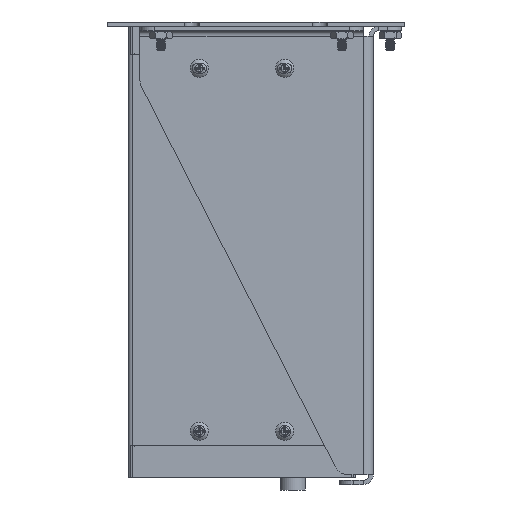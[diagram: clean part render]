
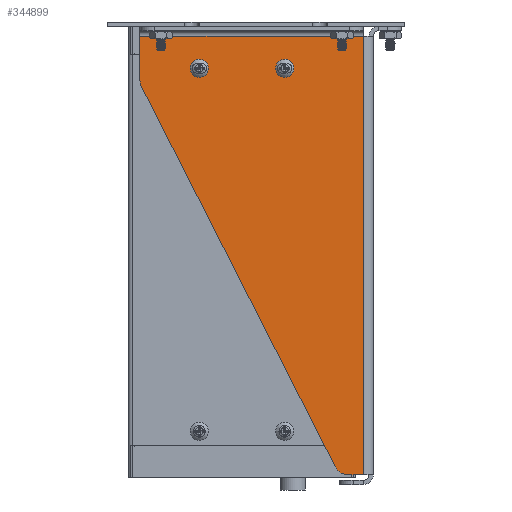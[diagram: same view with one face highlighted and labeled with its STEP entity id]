
A CAD part, left-side view. The second image highlights one B-rep face of the part: STEP entity #344899.
In plain terms, the highlighted planar face has unit normal (-1, 0, 0).
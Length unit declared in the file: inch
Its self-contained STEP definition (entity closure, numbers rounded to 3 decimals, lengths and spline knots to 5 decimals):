
#2132 = LINE ( 'NONE', #111964, #99370 ) ;
#7911 = EDGE_CURVE ( 'NONE', #267309, #241299, #233218, .T. ) ;
#8059 = DIRECTION ( 'NONE',  ( 0., 1., 0. ) ) ;
#8524 = CARTESIAN_POINT ( 'NONE',  ( -5.0897, 3.0947, -0.5653 ) ) ;
#12644 = CIRCLE ( 'NONE', #40953, 0.25 ) ;
#12885 = EDGE_CURVE ( 'NONE', #266610, #267309, #236851, .T. ) ;
#22857 = VECTOR ( 'NONE', #107054, 39.37008 ) ;
#24218 = CIRCLE ( 'NONE', #216382, 0.085 ) ;
#24424 = DIRECTION ( 'NONE',  ( 0., 1., 0. ) ) ;
#27054 = EDGE_LOOP ( 'NONE', ( #261532, #230809, #189957, #292829 ) ) ;
#28283 = CARTESIAN_POINT ( 'NONE',  ( -5.0897, 0., 0. ) ) ;
#29731 = DIRECTION ( 'NONE',  ( 0., 1., 0. ) ) ;
#32951 = EDGE_CURVE ( 'NONE', #116587, #118021, #185593, .T. ) ;
#34145 = DIRECTION ( 'NONE',  ( 1., 0., 0. ) ) ;
#36063 = CARTESIAN_POINT ( 'NONE',  ( -5.0897, 3.0147, -0.4803 ) ) ;
#40953 = AXIS2_PLACEMENT_3D ( 'NONE', #285878, #144716, #256051 ) ;
#44725 = VERTEX_POINT ( 'NONE', #345786 ) ;
#46740 = CARTESIAN_POINT ( 'NONE',  ( -5.0897, 0., -0.6503 ) ) ;
#49809 = AXIS2_PLACEMENT_3D ( 'NONE', #28283, #81354, #61370 ) ;
#50659 = AXIS2_PLACEMENT_3D ( 'NONE', #87288, #34145, #195188 ) ;
#54723 = LINE ( 'NONE', #136087, #344514 ) ;
#55503 = CARTESIAN_POINT ( 'NONE',  ( -5.0897, 4.1, 0. ) ) ;
#56852 = EDGE_CURVE ( 'NONE', #44725, #116587, #221612, .T. ) ;
#58126 = DIRECTION ( 'NONE',  ( 1., 0., 0. ) ) ;
#59785 = EDGE_LOOP ( 'NONE', ( #146215, #94809, #71144, #176099, #263094, #68980, #191819 ) ) ;
#60145 = CARTESIAN_POINT ( 'NONE',  ( -5.0897, 4.1, -0.76533 ) ) ;
#61370 = DIRECTION ( 'NONE',  ( 0., 1., 0. ) ) ;
#64198 = VERTEX_POINT ( 'NONE', #294191 ) ;
#64677 = AXIS2_PLACEMENT_3D ( 'NONE', #8524, #58126, #224371 ) ;
#67370 = CARTESIAN_POINT ( 'NONE',  ( -5.0897, 3.0947, -0.4803 ) ) ;
#68980 = ORIENTED_EDGE ( 'NONE', *, *, #130575, .F. ) ;
#71144 = ORIENTED_EDGE ( 'NONE', *, *, #292841, .T. ) ;
#71222 = EDGE_CURVE ( 'NONE', #189969, #258128, #319185, .T. ) ;
#77076 = CARTESIAN_POINT ( 'NONE',  ( -5.0897, 4.1, 0. ) ) ;
#78959 = CIRCLE ( 'NONE', #50659, 0.085 ) ;
#81354 = DIRECTION ( 'NONE',  ( 1., 0., 0. ) ) ;
#87288 = CARTESIAN_POINT ( 'NONE',  ( -5.0897, 3.0147, -0.5653 ) ) ;
#93361 = EDGE_CURVE ( 'NONE', #254006, #338025, #215480, .T. ) ;
#94809 = ORIENTED_EDGE ( 'NONE', *, *, #314056, .T. ) ;
#97251 = CARTESIAN_POINT ( 'NONE',  ( -5.0897, 0., -0.4803 ) ) ;
#99370 = VECTOR ( 'NONE', #193172, 39.37008 ) ;
#99935 = LINE ( 'NONE', #46740, #291095 ) ;
#101886 = EDGE_CURVE ( 'NONE', #333865, #207080, #261620, .T. ) ;
#102471 = DIRECTION ( 'NONE',  ( 0., -1., 0. ) ) ;
#102984 = AXIS2_PLACEMENT_3D ( 'NONE', #223941, #250498, #8059 ) ;
#104933 = VECTOR ( 'NONE', #158494, 39.37008 ) ;
#107054 = DIRECTION ( 'NONE',  ( 0., 0., -1. ) ) ;
#111964 = CARTESIAN_POINT ( 'NONE',  ( -5.0897, 0., 0. ) ) ;
#112981 = ORIENTED_EDGE ( 'NONE', *, *, #56852, .T. ) ;
#116587 = VERTEX_POINT ( 'NONE', #209811 ) ;
#118021 = VERTEX_POINT ( 'NONE', #163181 ) ;
#119782 = FACE_OUTER_BOUND ( 'NONE', #59785, .T. ) ;
#129899 = DIRECTION ( 'NONE',  ( 0., 1., 0. ) ) ;
#130575 = EDGE_CURVE ( 'NONE', #64198, #241299, #266075, .T. ) ;
#136087 = CARTESIAN_POINT ( 'NONE',  ( -5.0897, 3.58989, -1.8274 ) ) ;
#137245 = VERTEX_POINT ( 'NONE', #209703 ) ;
#144716 = DIRECTION ( 'NONE',  ( -1., 0., 0. ) ) ;
#144784 = ORIENTED_EDGE ( 'NONE', *, *, #32951, .T. ) ;
#146215 = ORIENTED_EDGE ( 'NONE', *, *, #71222, .T. ) ;
#146793 = CARTESIAN_POINT ( 'NONE',  ( -5.0897, 3.0947, -0.6503 ) ) ;
#150129 = CARTESIAN_POINT ( 'NONE',  ( -5.0897, 0., -7.701 ) ) ;
#158494 = DIRECTION ( 'NONE',  ( 0., 0., -1. ) ) ;
#160091 = ORIENTED_EDGE ( 'NONE', *, *, #336990, .T. ) ;
#161290 = CARTESIAN_POINT ( 'NONE',  ( -5.0897, 0.44673, -7.701 ) ) ;
#163181 = CARTESIAN_POINT ( 'NONE',  ( -5.0897, 1.5147, -0.4803 ) ) ;
#164948 = EDGE_CURVE ( 'NONE', #137245, #44725, #99935, .T. ) ;
#171126 = DIRECTION ( 'NONE',  ( 0., 1., 0. ) ) ;
#175635 = VECTOR ( 'NONE', #29731, 39.37008 ) ;
#176099 = ORIENTED_EDGE ( 'NONE', *, *, #12885, .T. ) ;
#176238 = EDGE_LOOP ( 'NONE', ( #112981, #144784, #160091, #193863 ) ) ;
#184804 = CARTESIAN_POINT ( 'NONE',  ( -5.0897, 0.1747, -7.701 ) ) ;
#185593 = LINE ( 'NONE', #242193, #349149 ) ;
#189950 = VERTEX_POINT ( 'NONE', #348945 ) ;
#189957 = ORIENTED_EDGE ( 'NONE', *, *, #101886, .T. ) ;
#189969 = VERTEX_POINT ( 'NONE', #55503 ) ;
#191819 = ORIENTED_EDGE ( 'NONE', *, *, #268517, .T. ) ;
#193172 = DIRECTION ( 'NONE',  ( 0., 1., 0. ) ) ;
#193863 = ORIENTED_EDGE ( 'NONE', *, *, #164948, .T. ) ;
#195188 = DIRECTION ( 'NONE',  ( 0., 1., 0. ) ) ;
#196214 = VECTOR ( 'NONE', #286076, 39.37008 ) ;
#206033 = CARTESIAN_POINT ( 'NONE',  ( -5.0897, 0.1747, -7.701 ) ) ;
#207080 = VERTEX_POINT ( 'NONE', #36063 ) ;
#209703 = CARTESIAN_POINT ( 'NONE',  ( -5.0897, 1.5147, -0.6503 ) ) ;
#209811 = CARTESIAN_POINT ( 'NONE',  ( -5.0897, 1.5947, -0.4803 ) ) ;
#215480 = LINE ( 'NONE', #326717, #175635 ) ;
#215760 = PLANE ( 'NONE',  #49809 ) ;
#216382 = AXIS2_PLACEMENT_3D ( 'NONE', #287855, #344397, #24424 ) ;
#219912 = AXIS2_PLACEMENT_3D ( 'NONE', #264097, #237620, #171126 ) ;
#221612 = CIRCLE ( 'NONE', #102984, 0.085 ) ;
#223941 = CARTESIAN_POINT ( 'NONE',  ( -5.0897, 1.5947, -0.5653 ) ) ;
#224371 = DIRECTION ( 'NONE',  ( 0., 1., 0. ) ) ;
#230809 = ORIENTED_EDGE ( 'NONE', *, *, #254736, .T. ) ;
#233218 = LINE ( 'NONE', #150129, #196214 ) ;
#236851 = CIRCLE ( 'NONE', #219912, 0.25 ) ;
#237620 = DIRECTION ( 'NONE',  ( -1., 0., 0. ) ) ;
#241299 = VERTEX_POINT ( 'NONE', #206033 ) ;
#242193 = CARTESIAN_POINT ( 'NONE',  ( -5.0897, 0., -0.4803 ) ) ;
#250498 = DIRECTION ( 'NONE',  ( 1., 0., 0. ) ) ;
#250688 = FACE_BOUND ( 'NONE', #27054, .T. ) ;
#253031 = CARTESIAN_POINT ( 'NONE',  ( -5.0897, 0.66953, -7.56441 ) ) ;
#254006 = VERTEX_POINT ( 'NONE', #292853 ) ;
#254736 = EDGE_CURVE ( 'NONE', #338025, #333865, #262131, .T. ) ;
#256051 = DIRECTION ( 'NONE',  ( 0., 1., 0. ) ) ;
#258128 = VERTEX_POINT ( 'NONE', #60145 ) ;
#261532 = ORIENTED_EDGE ( 'NONE', *, *, #93361, .T. ) ;
#261620 = LINE ( 'NONE', #97251, #348932 ) ;
#262131 = CIRCLE ( 'NONE', #64677, 0.085 ) ;
#263094 = ORIENTED_EDGE ( 'NONE', *, *, #7911, .T. ) ;
#264097 = CARTESIAN_POINT ( 'NONE',  ( -5.0897, 0.44673, -7.451 ) ) ;
#266075 = LINE ( 'NONE', #184804, #22857 ) ;
#266610 = VERTEX_POINT ( 'NONE', #253031 ) ;
#267309 = VERTEX_POINT ( 'NONE', #161290 ) ;
#268517 = EDGE_CURVE ( 'NONE', #64198, #189969, #2132, .T. ) ;
#270498 = FACE_BOUND ( 'NONE', #176238, .T. ) ;
#285878 = CARTESIAN_POINT ( 'NONE',  ( -5.0897, 3.85, -0.76533 ) ) ;
#286076 = DIRECTION ( 'NONE',  ( 0., -1., 0. ) ) ;
#287855 = CARTESIAN_POINT ( 'NONE',  ( -5.0897, 1.5147, -0.5653 ) ) ;
#291095 = VECTOR ( 'NONE', #129899, 39.37008 ) ;
#292829 = ORIENTED_EDGE ( 'NONE', *, *, #346339, .T. ) ;
#292841 = EDGE_CURVE ( 'NONE', #189950, #266610, #54723, .T. ) ;
#292853 = CARTESIAN_POINT ( 'NONE',  ( -5.0897, 3.0147, -0.6503 ) ) ;
#294191 = CARTESIAN_POINT ( 'NONE',  ( -5.0897, 0.1747, 0. ) ) ;
#314056 = EDGE_CURVE ( 'NONE', #258128, #189950, #12644, .T. ) ;
#319185 = LINE ( 'NONE', #77076, #104933 ) ;
#321505 = DIRECTION ( 'NONE',  ( 0., -1., 0. ) ) ;
#321582 = DIRECTION ( 'NONE',  ( 0., -0.454, -0.891 ) ) ;
#326717 = CARTESIAN_POINT ( 'NONE',  ( -5.0897, 0., -0.6503 ) ) ;
#333865 = VERTEX_POINT ( 'NONE', #67370 ) ;
#336990 = EDGE_CURVE ( 'NONE', #118021, #137245, #24218, .T. ) ;
#338025 = VERTEX_POINT ( 'NONE', #146793 ) ;
#344397 = DIRECTION ( 'NONE',  ( 1., 0., 0. ) ) ;
#344514 = VECTOR ( 'NONE', #321582, 39.37008 ) ;
#344899 = ADVANCED_FACE ( 'NONE', ( #250688, #270498, #119782 ), #215760, .F. ) ;
#345786 = CARTESIAN_POINT ( 'NONE',  ( -5.0897, 1.5947, -0.6503 ) ) ;
#346339 = EDGE_CURVE ( 'NONE', #207080, #254006, #78959, .T. ) ;
#348932 = VECTOR ( 'NONE', #102471, 39.37008 ) ;
#348945 = CARTESIAN_POINT ( 'NONE',  ( -5.0897, 4.0728, -0.87874 ) ) ;
#349149 = VECTOR ( 'NONE', #321505, 39.37008 ) ;
